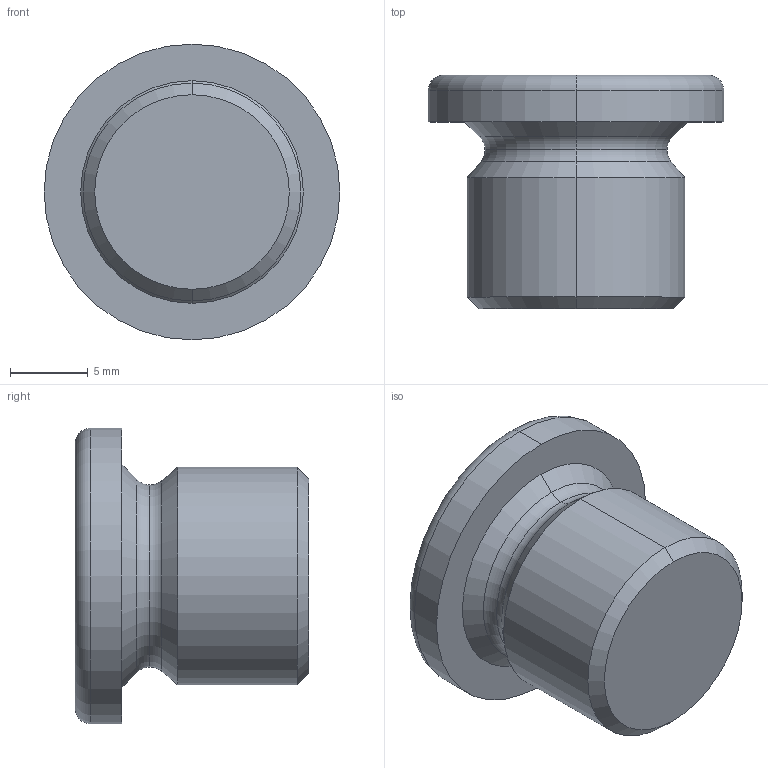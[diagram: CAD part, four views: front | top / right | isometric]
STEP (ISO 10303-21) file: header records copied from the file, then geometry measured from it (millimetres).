
FILE_DESCRIPTION (( 'STEP AP214' ), '1' );
FILE_NAME ('908-ST-M14x1,5-A.step', '2024-12-19T09:17:13', ( '' ), ( '' ), 'SwSTEP 2.0', 'SolidWorks 2022', '' );
FILE_SCHEMA (( 'AUTOMOTIVE_DESIGN' ));
Length unit declared in the file: millimetre
Products named in the file (1): 908-ST-M14x1,5-A
Bounding box: 19 x 15 x 19 mm (x, y, z)
Volume: 2354.2 mm3; surface area: 1386.9 mm2
Topology: 1 solids, 1 shells, 26 faces, 54 edges, 32 vertices
Faces by surface type: plane 10, torus 6, cone 6, cylinder 4
Entity records: 744 total; most frequent: DIRECTION 134, CARTESIAN_POINT 113, ORIENTED_EDGE 108, EDGE_CURVE 54, AXIS2_PLACEMENT_3D 53, VERTEX_POINT 32, LINE 28, EDGE_LOOP 28
